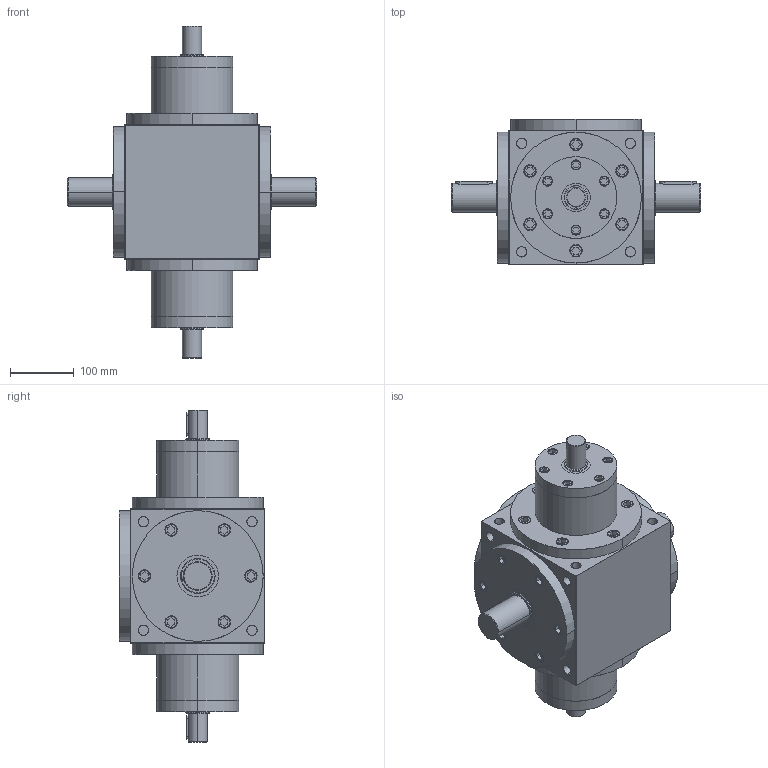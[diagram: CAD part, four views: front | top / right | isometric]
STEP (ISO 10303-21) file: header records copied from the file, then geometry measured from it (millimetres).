
FILE_DESCRIPTION (( 'STEP AP203' ), '1' );
FILE_NAME ('VSAF21-1£º1.5-I.step', '2018-07-16T00:29:08', ( 'IT Division' ), ( 'IT' ), 'SwSTEP 2.0', 'SolidWorks 2016', '' );
FILE_SCHEMA (( 'CONFIG_CONTROL_DESIGN' ));
Length unit declared in the file: millimetre
Products named in the file (1): VSAF21-1：1.5-I
Bounding box: 390 x 228 x 520 mm (x, y, z)
Volume: 14745373.6 mm3; surface area: 512309.8 mm2
Topology: 3 solids, 3 shells, 907 faces, 2022 edges, 1260 vertices
Faces by surface type: plane 443, cylinder 346, torus 94, cone 16, sphere 8
Entity records: 25371 total; most frequent: CARTESIAN_POINT 4864, DIRECTION 4476, ORIENTED_EDGE 4028, EDGE_CURVE 2014, AXIS2_PLACEMENT_3D 1692, VERTEX_POINT 1260, LINE 1092, VECTOR 1092
